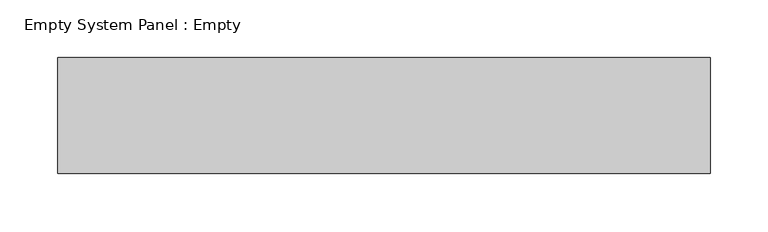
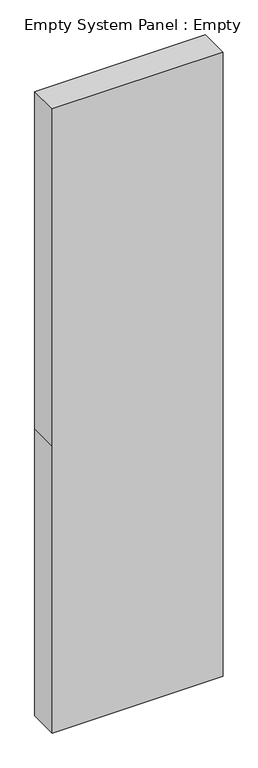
"""IFC4 building model written with IfcOpenShell, lengths in millimetres: plate geometry, Empty System Panel : Empty."""

from ifc_helpers import new_model, si_unit, frame, origin, place, context, project, spatial, polyline, outline, extrude, source, transform, mapped, element, save


def empty_system_panel_empty_b67399a0(model_context):
    return source(origin(), model_context, "Body", "SweptSolid", [
        extrude(outline(polyline([(0.0, -281.25), (0.0, 281.25), (997.5, 281.25), (2170.0, 281.25), (2170.0, -281.25), (997.5, -281.25), (0.0, -281.25)])), frame((0.0, -50.0, 0.0), z_axis=(0.0, 1.0, 0.0), x_axis=(0.0, 0.0, 1.0)), (0.0, 0.0, 1.0), 100.0),
    ])


if __name__ == "__main__":
    model = new_model("IFC4")
    model_context = context("Model", 3, world=origin())
    ifc_project = project(units=[si_unit("LENGTHUNIT", "METRE", prefix="MILLI")], contexts=[model_context])
    site = spatial("IfcSite", under=ifc_project)
    building = spatial("IfcBuilding", under=site)
    placement = place(None, origin())
    empty_system_panel_empty_shape = empty_system_panel_empty_b67399a0(model_context)
    element("IfcPlate", 1, ObjectType="Empty System Panel : Empty", at=placement, inside=building, context=model_context, shape_type="MappedRepresentation", body=[
        mapped(empty_system_panel_empty_shape, transform((0.0, 0.0, 0.0), x_axis=(1.0, 0.0, 0.0), y_axis=(0.0, 1.0, 0.0), z_axis=(0.0, 0.0, 1.0))),
    ])
    save(model, "model.ifc")
